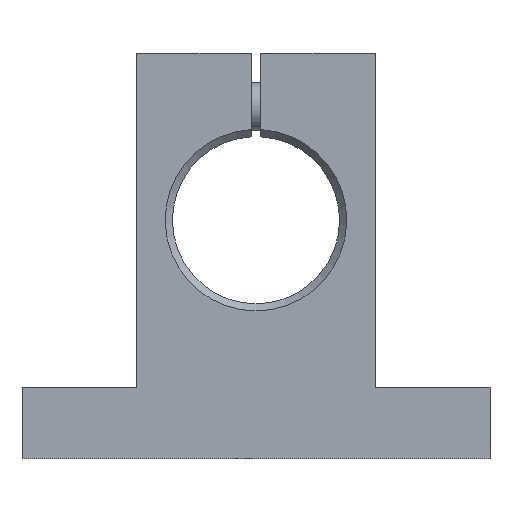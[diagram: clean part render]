
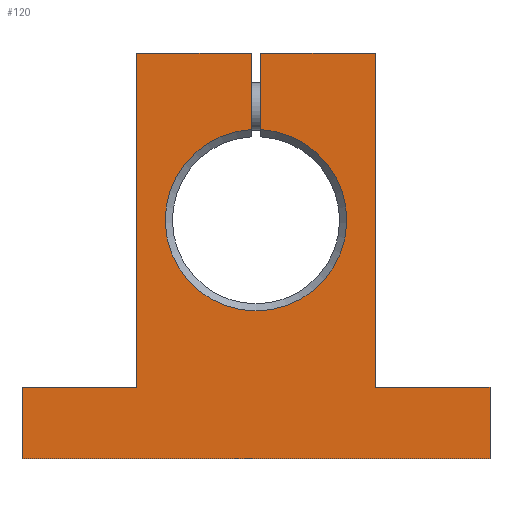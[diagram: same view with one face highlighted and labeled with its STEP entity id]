
A CAD part, front view. The second image highlights one B-rep face of the part: STEP entity #120.
In plain terms, the highlighted planar face has unit normal (0, -1, 0).
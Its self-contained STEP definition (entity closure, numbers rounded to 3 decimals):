
#120 = ADVANCED_FACE( '', ( #262 ), #263, .T. );
#262 = FACE_OUTER_BOUND( '', #406, .T. );
#263 = PLANE( '', #407 );
#406 = EDGE_LOOP( '', ( #672, #673, #674, #675, #676, #677, #678, #679, #680, #681, #682, #683 ) );
#407 = AXIS2_PLACEMENT_3D( '', #684, #685, #686 );
#672 = ORIENTED_EDGE( '', *, *, #796, .F. );
#673 = ORIENTED_EDGE( '', *, *, #849, .T. );
#674 = ORIENTED_EDGE( '', *, *, #843, .F. );
#675 = ORIENTED_EDGE( '', *, *, #784, .F. );
#676 = ORIENTED_EDGE( '', *, *, #847, .F. );
#677 = ORIENTED_EDGE( '', *, *, #829, .F. );
#678 = ORIENTED_EDGE( '', *, *, #850, .F. );
#679 = ORIENTED_EDGE( '', *, *, #816, .F. );
#680 = ORIENTED_EDGE( '', *, *, #789, .F. );
#681 = ORIENTED_EDGE( '', *, *, #761, .F. );
#682 = ORIENTED_EDGE( '', *, *, #780, .F. );
#683 = ORIENTED_EDGE( '', *, *, #851, .F. );
#684 = CARTESIAN_POINT( '', ( 0., -16., 0. ) );
#685 = DIRECTION( '', ( 0., -1., 0. ) );
#686 = DIRECTION( '', ( 1., 0., 0. ) );
#761 = EDGE_CURVE( '', #889, #890, #891, .T. );
#780 = EDGE_CURVE( '', #921, #889, #922, .T. );
#784 = EDGE_CURVE( '', #927, #928, #929, .T. );
#789 = EDGE_CURVE( '', #890, #936, #937, .T. );
#796 = EDGE_CURVE( '', #946, #948, #949, .T. );
#816 = EDGE_CURVE( '', #936, #978, #979, .T. );
#829 = EDGE_CURVE( '', #996, #997, #998, .T. );
#843 = EDGE_CURVE( '', #928, #1014, #1015, .T. );
#847 = EDGE_CURVE( '', #997, #927, #1019, .T. );
#849 = EDGE_CURVE( '', #946, #1014, #1021, .F. );
#850 = EDGE_CURVE( '', #978, #996, #1022, .T. );
#851 = EDGE_CURVE( '', #948, #921, #1023, .T. );
#889 = VERTEX_POINT( '', #1074 );
#890 = VERTEX_POINT( '', #1075 );
#891 = LINE( '', #1076, #1077 );
#921 = VERTEX_POINT( '', #1121 );
#922 = LINE( '', #1122, #1123 );
#927 = VERTEX_POINT( '', #1130 );
#928 = VERTEX_POINT( '', #1131 );
#929 = LINE( '', #1132, #1133 );
#936 = VERTEX_POINT( '', #1143 );
#937 = LINE( '', #1144, #1145 );
#946 = VERTEX_POINT( '', #1157 );
#948 = VERTEX_POINT( '', #1162 );
#949 = LINE( '', #1163, #1164 );
#978 = VERTEX_POINT( '', #1196 );
#979 = LINE( '', #1197, #1198 );
#996 = VERTEX_POINT( '', #1222 );
#997 = VERTEX_POINT( '', #1223 );
#998 = LINE( '', #1224, #1225 );
#1014 = VERTEX_POINT( '', #1245 );
#1015 = LINE( '', #1246, #1247 );
#1019 = LINE( '', #1254, #1255 );
#1021 = CIRCLE( '', #1257, 19. );
#1022 = LINE( '', #1258, #1259 );
#1023 = LINE( '', #1260, #1261 );
#1074 = CARTESIAN_POINT( '', ( 25., -16., -35. ) );
#1075 = CARTESIAN_POINT( '', ( 49., -16., -35. ) );
#1076 = CARTESIAN_POINT( '', ( 49., -16., -35. ) );
#1077 = VECTOR( '', #1288, 1000. );
#1121 = CARTESIAN_POINT( '', ( 25., -16., 35. ) );
#1122 = CARTESIAN_POINT( '', ( 25., -16., -35. ) );
#1123 = VECTOR( '', #1309, 1000. );
#1130 = CARTESIAN_POINT( '', ( -25., -16., 35. ) );
#1131 = CARTESIAN_POINT( '', ( -0.98, -16., 35. ) );
#1132 = CARTESIAN_POINT( '', ( -0.98, -16., 35. ) );
#1133 = VECTOR( '', #1312, 1000. );
#1143 = CARTESIAN_POINT( '', ( 49., -16., -50. ) );
#1144 = CARTESIAN_POINT( '', ( 49., -16., -50. ) );
#1145 = VECTOR( '', #1316, 1000. );
#1157 = CARTESIAN_POINT( '', ( 0.98, -16., 18.975 ) );
#1162 = CARTESIAN_POINT( '', ( 0.98, -16., 35. ) );
#1163 = CARTESIAN_POINT( '', ( 0.98, -16., 33. ) );
#1164 = VECTOR( '', #1323, 1000. );
#1196 = CARTESIAN_POINT( '', ( -49., -16., -50. ) );
#1197 = CARTESIAN_POINT( '', ( -49., -16., -50. ) );
#1198 = VECTOR( '', #1354, 1000. );
#1222 = CARTESIAN_POINT( '', ( -49., -16., -35. ) );
#1223 = CARTESIAN_POINT( '', ( -25., -16., -35. ) );
#1224 = CARTESIAN_POINT( '', ( -25., -16., -35. ) );
#1225 = VECTOR( '', #1365, 1000. );
#1245 = CARTESIAN_POINT( '', ( -0.98, -16., 18.975 ) );
#1246 = CARTESIAN_POINT( '', ( -0.98, -16., 17.473 ) );
#1247 = VECTOR( '', #1379, 1000. );
#1254 = CARTESIAN_POINT( '', ( -25., -16., 33. ) );
#1255 = VECTOR( '', #1380, 1000. );
#1257 = AXIS2_PLACEMENT_3D( '', #1381, #1382, #1383 );
#1258 = CARTESIAN_POINT( '', ( -49., -16., -35. ) );
#1259 = VECTOR( '', #1384, 1000. );
#1260 = CARTESIAN_POINT( '', ( 25., -16., 35. ) );
#1261 = VECTOR( '', #1385, 1000. );
#1288 = DIRECTION( '', ( 1., 0., 0. ) );
#1309 = DIRECTION( '', ( 0., 0., -1. ) );
#1312 = DIRECTION( '', ( 1., 0., 0. ) );
#1316 = DIRECTION( '', ( 0., 0., -1. ) );
#1323 = DIRECTION( '', ( 0., 0., 1. ) );
#1354 = DIRECTION( '', ( -1., 0., 0. ) );
#1365 = DIRECTION( '', ( 1., 0., 0. ) );
#1379 = DIRECTION( '', ( 0., 0., -1. ) );
#1380 = DIRECTION( '', ( 0., 0., 1. ) );
#1381 = CARTESIAN_POINT( '', ( 0., -16., 0. ) );
#1382 = DIRECTION( '', ( 0., -1., 0. ) );
#1383 = DIRECTION( '', ( 0., 0., -1. ) );
#1384 = DIRECTION( '', ( 0., 0., 1. ) );
#1385 = DIRECTION( '', ( 1., 0., 0. ) );
